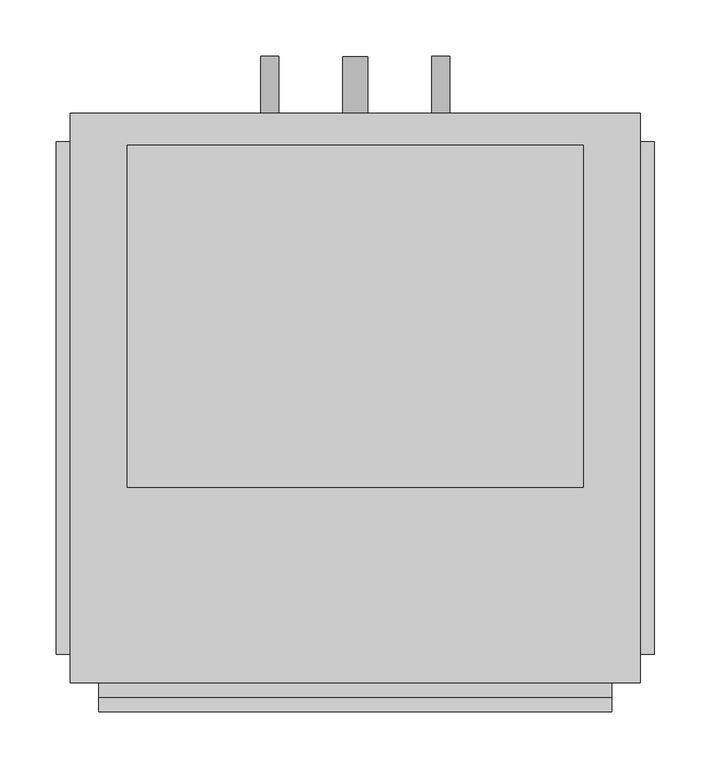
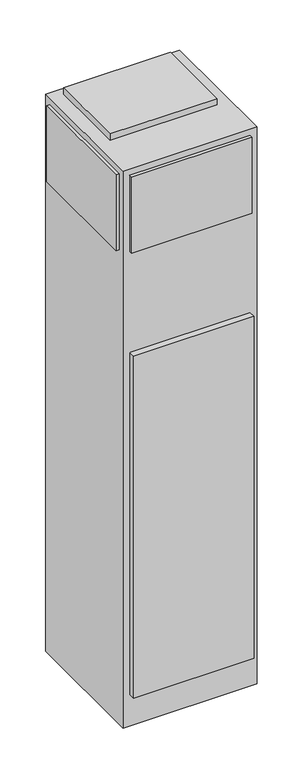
"""IFC4 building model written with IfcOpenShell, lengths in millimetres: proxy geometry, Concealed_Universal_Modular_Fan_Coil_Unit_-_42SUB_-_CARRIER_-_2-Pipe_Cool-EHeat_-_NoRisers_2022 : Size 06 - 277v/60Hz/1Ph - 4 Row 6.0kW."""

from ifc_helpers import new_model, si_unit, point, frame, frame_2d, origin, origin_with_axes, place, context, project, spatial, polyline, circle_curve, trimmed, segment, composite_curve, outline, extrude, source, transform, mapped, element, save


def mechanical_equipment_121a5135(model_context):
    return source(origin(), model_context, "Body", "SweptSolid", [
        extrude(outline(composite_curve([segment(trimmed(circle_curve(frame_2d((990.6, 482.6)), 7.9375), [point((990.6, 474.6625))], [point((990.6, 490.5375))], False, "CARTESIAN"), True, "CONTINUOUS"), segment(trimmed(circle_curve(frame_2d((990.6, 482.6)), 7.9375), [point((990.6, 490.5375))], [point((990.6, 474.6625))], False, "CARTESIAN"), True, "CONTINUOUS")], self_intersect=False)), frame((0.0, 244.475, 0.0), z_axis=(0.0, 1.0, 0.0), x_axis=(0.0, 0.0, 1.0)), (0.0, 0.0, 1.0), 50.8),
        extrude(outline(composite_curve([segment(trimmed(circle_curve(frame_2d((990.6, 330.2)), 7.9375), [point((990.6, 322.2625))], [point((990.6, 338.1375))], False, "CARTESIAN"), True, "CONTINUOUS"), segment(trimmed(circle_curve(frame_2d((990.6, 330.2)), 7.9375), [point((990.6, 338.1375))], [point((990.6, 322.2625))], False, "CARTESIAN"), True, "CONTINUOUS")], self_intersect=False)), frame((0.0, 244.475, 0.0), z_axis=(0.0, 1.0, 0.0), x_axis=(0.0, 0.0, 1.0)), (0.0, 0.0, 1.0), 50.8),
        extrude(outline(composite_curve([segment(trimmed(circle_curve(frame_2d((76.2, 406.4)), 11.1125), [point((76.2, 395.2875))], [point((76.2, 417.5125))], False, "CARTESIAN"), True, "CONTINUOUS"), segment(trimmed(circle_curve(frame_2d((76.2, 406.4)), 11.1125), [point((76.2, 417.5125))], [point((76.2, 395.2875))], False, "CARTESIAN"), True, "CONTINUOUS")], self_intersect=False)), frame((0.0, 244.475, 0.0), z_axis=(0.0, 1.0, 0.0), x_axis=(0.0, 0.0, 1.0)), (0.0, 0.0, 1.0), 50.8),
        extrude(outline(polyline([(609.6, 215.9), (609.6, -88.9), (203.2, -88.9), (203.2, 215.9), (609.6, 215.9)])), frame((0.0, 0.0, 2235.2), z_axis=(0.0, 0.0, 1.0), x_axis=(1.0, 0.0, 0.0)), (0.0, 0.0, 1.0), 25.4),
        extrude(outline(polyline([(139.7, -238.125), (139.7, 219.075), (152.4, 219.075), (152.4, -238.125), (139.7, -238.125)])), frame((0.0, 0.0, 1905.0), z_axis=(0.0, 0.0, 1.0), x_axis=(1.0, 0.0, 0.0)), (0.0, 0.0, 1.0), 304.8),
        extrude(outline(polyline([(673.1, 219.075), (673.1, -238.125), (660.4, -238.125), (660.4, 219.075), (673.1, 219.075)])), frame((0.0, 0.0, 1905.0), z_axis=(0.0, 0.0, 1.0), x_axis=(1.0, 0.0, 0.0)), (0.0, 0.0, 1.0), 304.8),
        extrude(outline(polyline([(635.0, -276.225), (177.8, -276.225), (177.8, -263.525), (635.0, -263.525), (635.0, -276.225)])), frame((0.0, 0.0, 1905.0), z_axis=(0.0, 0.0, 1.0), x_axis=(1.0, 0.0, 0.0)), (0.0, 0.0, 1.0), 304.8),
        extrude(outline(polyline([(635.0, -288.925), (177.8, -288.925), (177.8, -263.525), (635.0, -263.525), (635.0, -288.925)])), frame((0.0, 0.0, 127.0), z_axis=(0.0, 0.0, 1.0), x_axis=(1.0, 0.0, 0.0)), (0.0, 0.0, 1.0), 1371.6),
        extrude(outline(polyline([(660.4, 244.475), (660.4, -263.525), (152.4, -263.525), (152.4, 244.475), (660.4, 244.475)])), origin_with_axes(), (0.0, 0.0, 1.0), 2235.2),
    ])


if __name__ == "__main__":
    model = new_model("IFC4")
    model_context = context("Model", 3, world=origin())
    ifc_project = project(units=[si_unit("LENGTHUNIT", "METRE", prefix="MILLI")], contexts=[model_context])
    site = spatial("IfcSite", under=ifc_project)
    building = spatial("IfcBuilding", under=site)
    placement = place(None, origin())
    mechanical_equipment_shape = mechanical_equipment_121a5135(model_context)
    element("IfcBuildingElementProxy", 1, Name="Concealed_Universal_Modular_Fan_Coil_Unit_-_42SUB_-_CARRIER_-_2-Pipe_Cool-EHeat_-_NoRisers_2022 : Size 06 - 277v/60Hz/1Ph - 4 Row 6.0kW", ObjectType="Concealed_Universal_Modular_Fan_Coil_Unit_-_42SUB_-_CARRIER_-_2-Pipe_Cool-EHeat_-_NoRisers_2022 : Size 06 - 277v/60Hz/1Ph - 4 Row 6.0kW", at=placement, inside=building, context=model_context, shape_type="MappedRepresentation", body=[
        mapped(mechanical_equipment_shape, transform((0.0, 0.0, 0.0), x_axis=(1.0, 0.0, 0.0), y_axis=(0.0, 1.0, 0.0), z_axis=(0.0, 0.0, 1.0))),
    ])
    save(model, "model.ifc")
